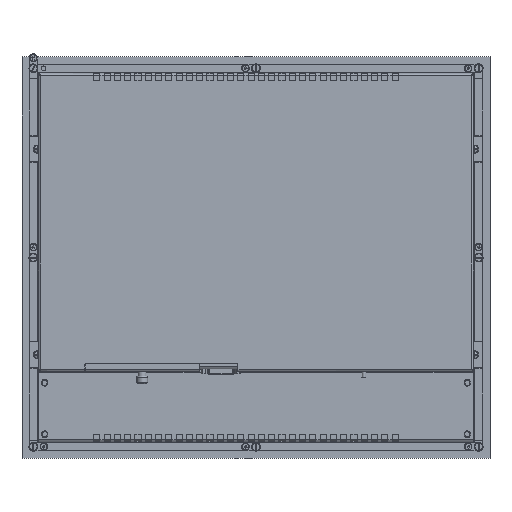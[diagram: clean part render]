
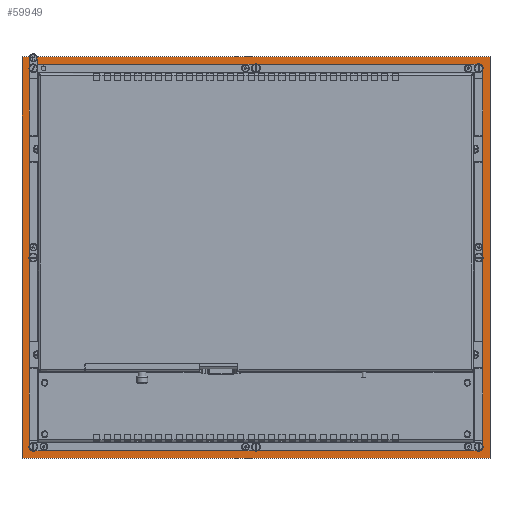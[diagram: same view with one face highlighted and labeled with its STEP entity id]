
A CAD part, top view. The second image highlights one B-rep face of the part: STEP entity #59949.
In plain terms, the highlighted planar face has unit normal (0, 0, 1).
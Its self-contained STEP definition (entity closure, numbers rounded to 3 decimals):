
#5329=LINE('',#95168,#11753);
#5333=LINE('',#95177,#11757);
#5336=LINE('',#95185,#11760);
#5339=LINE('',#95193,#11763);
#5341=LINE('',#95200,#11765);
#5342=LINE('',#95202,#11766);
#5343=LINE('',#95204,#11767);
#5344=LINE('',#95205,#11768);
#11753=VECTOR('',#76846,365.);
#11757=VECTOR('',#76856,430.);
#11760=VECTOR('',#76865,365.);
#11763=VECTOR('',#76874,430.);
#11765=VECTOR('',#76882,455.);
#11766=VECTOR('',#76883,390.);
#11767=VECTOR('',#76884,455.);
#11768=VECTOR('',#76885,390.);
#15361=PLANE('',#63962);
#16782=FACE_BOUND('',#23063,.T.);
#19429=FACE_OUTER_BOUND('',#23062,.T.);
#23062=EDGE_LOOP('',(#51031,#51032,#51033,#51034));
#23063=EDGE_LOOP('',(#51035,#51036,#51037,#51038,#51039,#51040,#51041,#51042));
#24767=CIRCLE('',#63952,5.5);
#24768=CIRCLE('',#63955,5.5);
#24769=CIRCLE('',#63958,5.5);
#24770=CIRCLE('',#63961,5.5);
#29338=VERTEX_POINT('',#95166);
#29339=VERTEX_POINT('',#95167);
#29340=VERTEX_POINT('',#95172);
#29341=VERTEX_POINT('',#95176);
#29342=VERTEX_POINT('',#95180);
#29343=VERTEX_POINT('',#95184);
#29344=VERTEX_POINT('',#95188);
#29345=VERTEX_POINT('',#95192);
#29346=VERTEX_POINT('',#95198);
#29347=VERTEX_POINT('',#95199);
#29348=VERTEX_POINT('',#95201);
#29349=VERTEX_POINT('',#95203);
#36753=EDGE_CURVE('',#29338,#29339,#5329,.T.);
#36756=EDGE_CURVE('',#29339,#29340,#24767,.T.);
#36758=EDGE_CURVE('',#29340,#29341,#5333,.T.);
#36760=EDGE_CURVE('',#29341,#29342,#24768,.T.);
#36762=EDGE_CURVE('',#29342,#29343,#5336,.T.);
#36764=EDGE_CURVE('',#29343,#29344,#24769,.T.);
#36766=EDGE_CURVE('',#29344,#29345,#5339,.T.);
#36768=EDGE_CURVE('',#29345,#29338,#24770,.T.);
#36769=EDGE_CURVE('',#29346,#29347,#5341,.T.);
#36770=EDGE_CURVE('',#29348,#29346,#5342,.T.);
#36771=EDGE_CURVE('',#29349,#29348,#5343,.T.);
#36772=EDGE_CURVE('',#29347,#29349,#5344,.T.);
#51031=ORIENTED_EDGE('',*,*,#36769,.F.);
#51032=ORIENTED_EDGE('',*,*,#36770,.F.);
#51033=ORIENTED_EDGE('',*,*,#36771,.F.);
#51034=ORIENTED_EDGE('',*,*,#36772,.F.);
#51035=ORIENTED_EDGE('',*,*,#36753,.F.);
#51036=ORIENTED_EDGE('',*,*,#36768,.F.);
#51037=ORIENTED_EDGE('',*,*,#36766,.F.);
#51038=ORIENTED_EDGE('',*,*,#36764,.F.);
#51039=ORIENTED_EDGE('',*,*,#36762,.F.);
#51040=ORIENTED_EDGE('',*,*,#36760,.F.);
#51041=ORIENTED_EDGE('',*,*,#36758,.F.);
#51042=ORIENTED_EDGE('',*,*,#36756,.F.);
#59949=ADVANCED_FACE('',(#19429,#16782),#15361,.T.);
#63952=AXIS2_PLACEMENT_3D('',#95173,#76851,#76852);
#63955=AXIS2_PLACEMENT_3D('',#95181,#76860,#76861);
#63958=AXIS2_PLACEMENT_3D('',#95189,#76869,#76870);
#63961=AXIS2_PLACEMENT_3D('',#95196,#76878,#76879);
#63962=AXIS2_PLACEMENT_3D('',#95197,#76880,#76881);
#76846=DIRECTION('',(0.,-1.,0.));
#76851=DIRECTION('center_axis',(0.,0.,1.));
#76852=DIRECTION('ref_axis',(1.,0.,0.));
#76856=DIRECTION('',(1.,0.,0.));
#76860=DIRECTION('center_axis',(0.,0.,1.));
#76861=DIRECTION('ref_axis',(0.,1.,0.));
#76865=DIRECTION('',(0.,1.,0.));
#76869=DIRECTION('center_axis',(0.,0.,1.));
#76870=DIRECTION('ref_axis',(-1.,0.,0.));
#76874=DIRECTION('',(-1.,0.,0.));
#76878=DIRECTION('center_axis',(0.,0.,1.));
#76879=DIRECTION('ref_axis',(0.,-1.,0.));
#76880=DIRECTION('center_axis',(0.,0.,1.));
#76881=DIRECTION('ref_axis',(1.,0.,0.));
#76882=DIRECTION('',(-1.,0.,0.));
#76883=DIRECTION('',(0.,-1.,0.));
#76884=DIRECTION('',(1.,0.,0.));
#76885=DIRECTION('',(0.,1.,0.));
#95166=CARTESIAN_POINT('',(-220.5,182.5,4.));
#95167=CARTESIAN_POINT('',(-220.5,-182.5,4.));
#95168=CARTESIAN_POINT('',(-220.5,91.25,4.));
#95172=CARTESIAN_POINT('',(-215.,-188.,4.));
#95173=CARTESIAN_POINT('Origin',(-215.,-182.5,4.));
#95176=CARTESIAN_POINT('',(215.,-188.,4.));
#95177=CARTESIAN_POINT('',(-107.5,-188.,4.));
#95180=CARTESIAN_POINT('',(220.5,-182.5,4.));
#95181=CARTESIAN_POINT('Origin',(215.,-182.5,4.));
#95184=CARTESIAN_POINT('',(220.5,182.5,4.));
#95185=CARTESIAN_POINT('',(220.5,-91.25,4.));
#95188=CARTESIAN_POINT('',(215.,188.,4.));
#95189=CARTESIAN_POINT('Origin',(215.,182.5,4.));
#95192=CARTESIAN_POINT('',(-215.,188.,4.));
#95193=CARTESIAN_POINT('',(107.5,188.,4.));
#95196=CARTESIAN_POINT('Origin',(-215.,182.5,4.));
#95197=CARTESIAN_POINT('Origin',(0.,0.,
4.));
#95198=CARTESIAN_POINT('',(227.5,-195.,4.));
#95199=CARTESIAN_POINT('',(-227.5,-195.,4.));
#95200=CARTESIAN_POINT('',(113.75,-195.,4.));
#95201=CARTESIAN_POINT('',(227.5,195.,4.));
#95202=CARTESIAN_POINT('',(227.5,97.5,4.));
#95203=CARTESIAN_POINT('',(-227.5,195.,4.));
#95204=CARTESIAN_POINT('',(-113.75,195.,4.));
#95205=CARTESIAN_POINT('',(-227.5,-97.5,4.));
